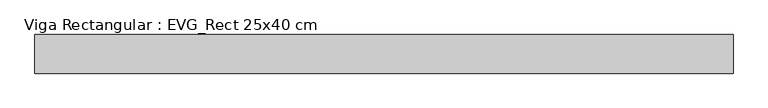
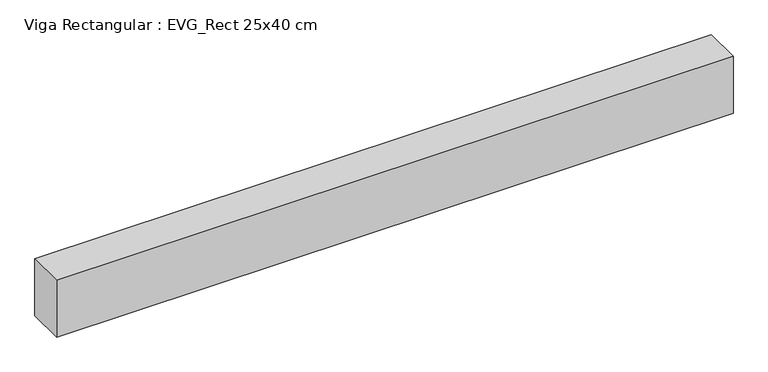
"""IFC4 building model written with IfcOpenShell, lengths in millimetres: beam geometry, Viga Rectangular : EVG_Rect 25x40 cm."""

from ifc_helpers import new_model, si_unit, frame, origin, place, context, project, spatial, polyline, outline, extrude, source, transform, mapped, element, save


def viga_rectangular_evg_rect_25x40_cm_a9b09c48(model_context):
    return source(origin(), model_context, "Body", "SweptSolid", [
        extrude(outline(polyline([(2370.0, 125.0), (2370.0, -125.0), (-2150.0, -125.0), (-2150.0, 125.0), (2370.0, 125.0)])), frame((0.0, 0.0, -400.0), z_axis=(0.0, 0.0, 1.0), x_axis=(1.0, 0.0, 0.0)), (0.0, 0.0, 1.0), 400.0),
    ])


if __name__ == "__main__":
    model = new_model("IFC4")
    model_context = context("Model", 3, world=origin())
    ifc_project = project(units=[si_unit("LENGTHUNIT", "METRE", prefix="MILLI")], contexts=[model_context])
    site = spatial("IfcSite", under=ifc_project)
    building = spatial("IfcBuilding", under=site)
    placement = place(None, origin())
    viga_rectangular_evg_rect_25x40_cm_shape = viga_rectangular_evg_rect_25x40_cm_a9b09c48(model_context)
    element("IfcBeam", 1, ObjectType="Viga Rectangular : EVG_Rect 25x40 cm", at=placement, inside=building, context=model_context, shape_type="MappedRepresentation", body=[
        mapped(viga_rectangular_evg_rect_25x40_cm_shape, transform((0.0, 0.0, 0.0), x_axis=(1.0, 0.0, 0.0), y_axis=(0.0, 1.0, 0.0), z_axis=(0.0, 0.0, 1.0))),
    ])
    save(model, "model.ifc")
